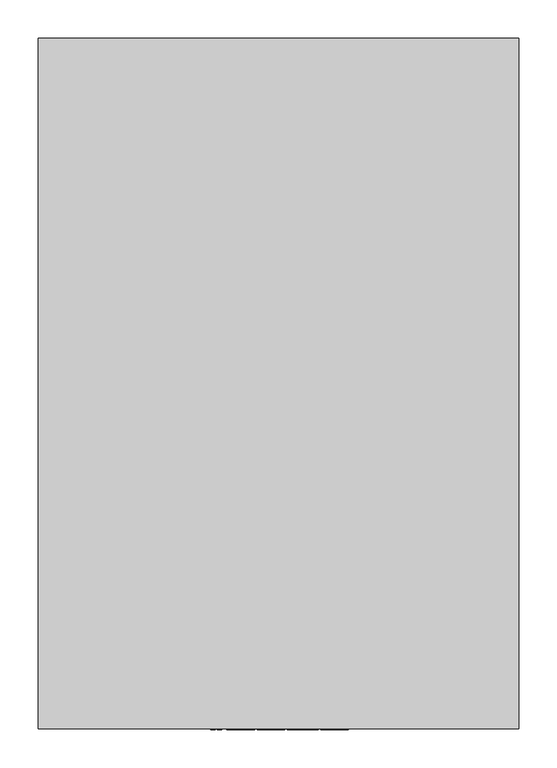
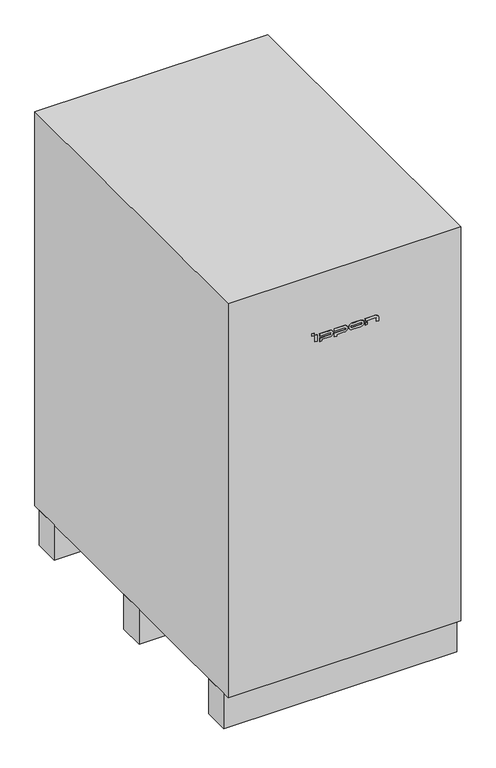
"""IFC4 building model written with IfcOpenShell, lengths in millimetres: proxy geometry, IPPON_EBM_Innova RT 33 Tower_60000-80000ВА : EBM Innova RT 33 Tower 60000/80000 ВА."""

from ifc_helpers import new_model, si_unit, point, frame, frame_2d, origin, origin_with_axes, place, context, project, spatial, polyline, circle_curve, trimmed, segment, composite_curve, outline, extrude, source, transform, mapped, element, save


def electrical_equipment_45f5dc8f(model_context):
    return source(origin(), model_context, "Body", "SweptSolid", [
        extrude(outline(polyline([(-82.1593843, -1.0), (-88.1593843, -1.0), (-88.1593843, 0.0), (-82.1593843, 0.0), (-82.1593843, -1.0)])), frame((0.0, 0.0, 1049.3567579), z_axis=(0.0, 0.0, 1.0), x_axis=(1.0, 0.0, 0.0)), (0.0, 0.0, 1.0), 6.9),
        extrude(outline(polyline([(61.1666976, -1.0), (55.1666976, -1.0), (55.1666976, 0.0), (61.1666976, 0.0), (61.1666976, -1.0)])), frame((0.0, 0.0, 1031.3567579), z_axis=(0.0, 0.0, 1.0), x_axis=(1.0, 0.0, 0.0)), (0.0, 0.0, 1.0), 6.6804693),
        extrude(outline(polyline([(-73.9596396, -1.0), (-80.0939418, -1.0), (-80.0939418, 0.0), (-73.9596396, 0.0), (-73.9596396, -1.0)])), frame((0.0, 0.0, 1031.3567579), z_axis=(0.0, 0.0, 1.0), x_axis=(1.0, 0.0, 0.0)), (0.0, 0.0, 1.0), 18.0),
        extrude(outline(composite_curve([segment(polyline([(1042.5694379, -67.3162771), (1042.5694379, -39.6210053)]), True, "CONTINUOUS"), segment(trimmed(circle_curve(frame_2d((1040.0, -39.6210053)), 2.5694379), [point((1042.5694379, -39.6210053))], [point((1037.4305621, -39.6210053))], True, "CARTESIAN"), True, "CONTINUOUS"), segment(polyline([(1037.4305621, -39.6210053), (1037.4305621, -67.3162771), (1026.9590483, -67.3162771), (1026.9590483, -61.3162771), (1031.3567579, -61.3162771), (1031.3567579, -40.0897553)]), True, "CONTINUOUS"), segment(trimmed(circle_curve(frame_2d((1040.3567579, -40.0897553)), 9.0), [point((1031.3567579, -40.0897553))], [point((1049.3567579, -40.0897553))], False, "CARTESIAN"), True, "CONTINUOUS"), segment(polyline([(1049.3567579, -40.0897553), (1049.3567579, -67.3162771), (1042.5694379, -67.3162771)]), True, "CONTINUOUS")], self_intersect=False)), frame((0.0, -1.0, 0.0), z_axis=(0.0, 1.0, 0.0), x_axis=(0.0, 0.0, 1.0)), (0.0, 0.0, 1.0), 1.0),
        extrude(outline(composite_curve([segment(polyline([(1042.5694379, -27.6952719), (1042.5694379, 0.0)]), True, "CONTINUOUS"), segment(trimmed(circle_curve(frame_2d((1040.0, 0.0)), 2.5694379), [point((1042.5694379, 0.0))], [point((1037.4305621, 0.0))], True, "CARTESIAN"), True, "CONTINUOUS"), segment(polyline([(1037.4305621, 0.0), (1037.4305621, -27.6952719), (1026.9590483, -27.6952719), (1026.9590483, -21.6952719), (1031.3567579, -21.6952719), (1031.3567579, -0.46875)]), True, "CONTINUOUS"), segment(trimmed(circle_curve(frame_2d((1040.3567579, -0.46875)), 9.0), [point((1031.3567579, -0.46875))], [point((1049.3567579, -0.46875))], False, "CARTESIAN"), True, "CONTINUOUS"), segment(polyline([(1049.3567579, -0.46875), (1049.3567579, -27.6952719), (1042.5694379, -27.6952719)]), True, "CONTINUOUS")], self_intersect=False)), frame((0.0, -1.0, 0.0), z_axis=(0.0, 1.0, 0.0), x_axis=(0.0, 0.0, 1.0)), (0.0, 0.0, 1.0), 1.0),
        extrude(outline(composite_curve([segment(trimmed(circle_curve(frame_2d((1040.3567579, 43.0320266)), 9.0), [point((1031.3567579, 43.0320266))], [point((1049.3567579, 43.0320266))], False, "CARTESIAN"), True, "CONTINUOUS"), segment(polyline([(1049.3567579, 43.0320266), (1049.3567579, 20.2320266)]), True, "CONTINUOUS"), segment(trimmed(circle_curve(frame_2d((1040.3567579, 20.2320266)), 9.0), [point((1049.3567579, 20.2320266))], [point((1031.3567579, 20.2320266))], False, "CARTESIAN"), True, "CONTINUOUS"), segment(polyline([(1031.3567579, 20.2320266), (1031.3567579, 43.0320266)]), True, "CONTINUOUS")], self_intersect=False), holes=[composite_curve([segment(polyline([(1037.4305621, 43.5007766), (1037.4305621, 19.7632766)]), True, "CONTINUOUS"), segment(trimmed(circle_curve(frame_2d((1040.0, 19.7632766)), 2.5694379), [point((1037.4305621, 19.7632766))], [point((1042.5694379, 19.7632766))], True, "CARTESIAN"), True, "CONTINUOUS"), segment(polyline([(1042.5694379, 19.7632766), (1042.5694379, 43.5007766)]), True, "CONTINUOUS"), segment(trimmed(circle_curve(frame_2d((1040.0, 43.5007766)), 2.5694379), [point((1042.5694379, 43.5007766))], [point((1037.4305621, 43.5007766))], True, "CARTESIAN"), True, "CONTINUOUS")], self_intersect=False)]), frame((0.0, -1.0, 0.0), z_axis=(0.0, 1.0, 0.0), x_axis=(0.0, 0.0, 1.0)), (0.0, 0.0, 1.0), 1.0),
        extrude(outline(composite_curve([segment(polyline([(1042.5694379, 55.1666976), (1042.5694379, 82.8619695)]), True, "CONTINUOUS"), segment(trimmed(circle_curve(frame_2d((1040.0, 82.8619695)), 2.5694379), [point((1042.5694379, 82.8619695))], [point((1040.0, 85.4314074))], True, "CARTESIAN"), True, "CONTINUOUS"), segment(polyline([(1040.0, 85.4314074), (1031.3567579, 85.4314074), (1031.3567579, 91.2514318), (1041.9480073, 91.2514318)]), True, "CONTINUOUS"), segment(trimmed(circle_curve(frame_2d((1040.3567579, 82.3932195)), 9.0), [point((1041.9480073, 91.2514318))], [point((1049.3567579, 82.3932195))], False, "CARTESIAN"), True, "CONTINUOUS"), segment(polyline([(1049.3567579, 82.3932195), (1049.3567579, 55.1666976), (1042.5694379, 55.1666976)]), True, "CONTINUOUS")], self_intersect=False)), frame((0.0, -1.0, 0.0), z_axis=(0.0, 1.0, 0.0), x_axis=(0.0, 0.0, 1.0)), (0.0, 0.0, 1.0), 1.0),
        extrude(outline(polyline([(313.0, 880.0), (313.0, 810.0), (-313.0, 810.0), (-313.0, 880.0), (313.0, 880.0)])), origin_with_axes(), (0.0, 0.0, 1.0), 100.0),
        extrude(outline(polyline([(313.0, 485.0), (313.0, 415.0), (-313.0, 415.0), (-313.0, 485.0), (313.0, 485.0)])), origin_with_axes(), (0.0, 0.0, 1.0), 100.0),
        extrude(outline(polyline([(313.0, 90.0), (313.0, 20.0), (-313.0, 20.0), (-313.0, 90.0), (313.0, 90.0)])), origin_with_axes(), (0.0, 0.0, 1.0), 100.0),
        extrude(outline(polyline([(313.0, 0.0), (-313.0, 0.0), (-313.0, 900.0), (313.0, 900.0), (313.0, 0.0)])), frame((0.0, 0.0, 100.0), z_axis=(0.0, 0.0, 1.0), x_axis=(1.0, 0.0, 0.0)), (0.0, 0.0, 1.0), 1120.0),
    ])


if __name__ == "__main__":
    model = new_model("IFC4")
    model_context = context("Model", 3, world=origin())
    ifc_project = project(units=[si_unit("LENGTHUNIT", "METRE", prefix="MILLI")], contexts=[model_context])
    site = spatial("IfcSite", under=ifc_project)
    building = spatial("IfcBuilding", under=site)
    placement = place(None, origin())
    electrical_equipment_shape = electrical_equipment_45f5dc8f(model_context)
    element("IfcBuildingElementProxy", 1, Name="IPPON_EBM_Innova RT 33 Tower_60000-80000ВА : EBM Innova RT 33 Tower 60000/80000 ВА", ObjectType="IPPON_EBM_Innova RT 33 Tower_60000-80000ВА : EBM Innova RT 33 Tower 60000/80000 ВА", at=placement, inside=building, context=model_context, shape_type="MappedRepresentation", body=[
        mapped(electrical_equipment_shape, transform((0.0, 0.0, 0.0), x_axis=(1.0, 0.0, 0.0), y_axis=(0.0, 1.0, 0.0), z_axis=(0.0, 0.0, 1.0))),
    ])
    save(model, "model.ifc")
